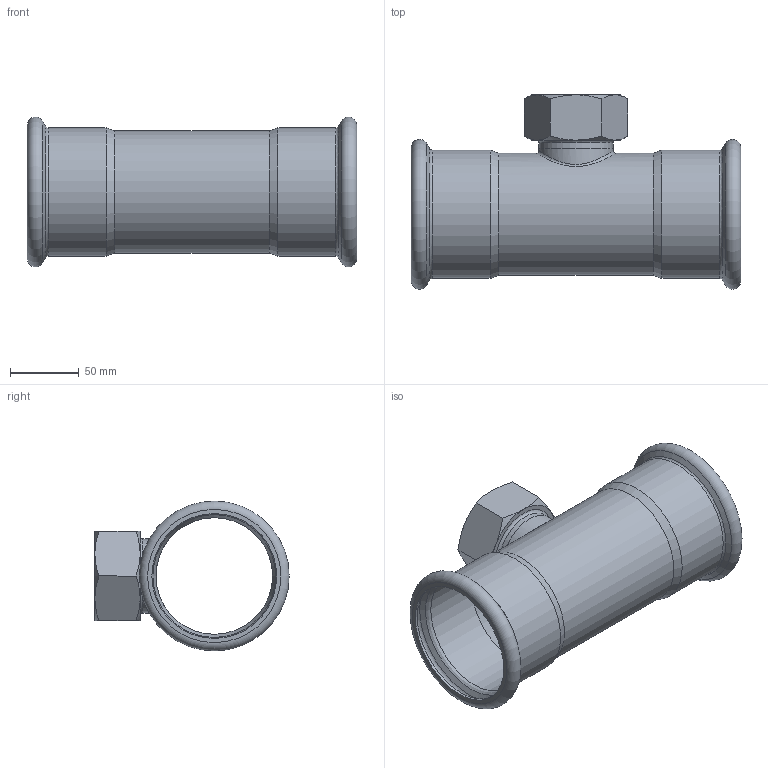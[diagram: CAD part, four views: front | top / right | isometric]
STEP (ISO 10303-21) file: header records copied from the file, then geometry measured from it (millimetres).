
FILE_DESCRIPTION((''),'2;1');
FILE_NAME('G:\Nirosan-Schmiedefeld\Technics\CAD\Bauteile\089\69130G89289(2).stp','2008-06-03T08:56:10',('herberg'),(''),'Autodesk Inventor 2009','Autodesk Inventor 2009','');
FILE_SCHEMA(('AUTOMOTIVE_DESIGN { 1 0 10303 214 1 1 1 1 }'));
Length unit declared in the file: millimetre
Products named in the file (3): 69130G89289(2); LM_69130895489(0); IG542(1)
Assembly tree (2 placements, depth 2):
  69130G89289(2)
    LM_69130895489(0)
    IG542(1)
Bounding box: 240 x 141.55 x 109.1 mm (x, y, z)
Volume: 186030.9 mm3; surface area: 164928.5 mm2
Topology: 2 solids, 2 shells, 60 faces, 125 edges, 73 vertices
Faces by surface type: cone 21, plane 14, cylinder 11, bspline 10, torus 4
Full cylindrical faces by diameter (mm): 50 x1, 54 x2, 84.9 x1, 88.9 x1, 89.5 x2, 91 x2, 93.5 x2
Entity records: 3252 total; most frequent: CARTESIAN_POINT 2145, DIRECTION 218, ORIENTED_EDGE 172, AXIS2_PLACEMENT_3D 106, EDGE_LOOP 102, EDGE_CURVE 86, VERTEX_POINT 66, FACE_OUTER_BOUND 60
